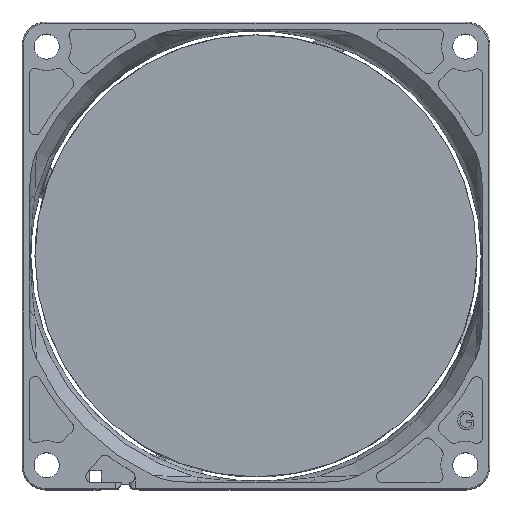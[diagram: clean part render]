
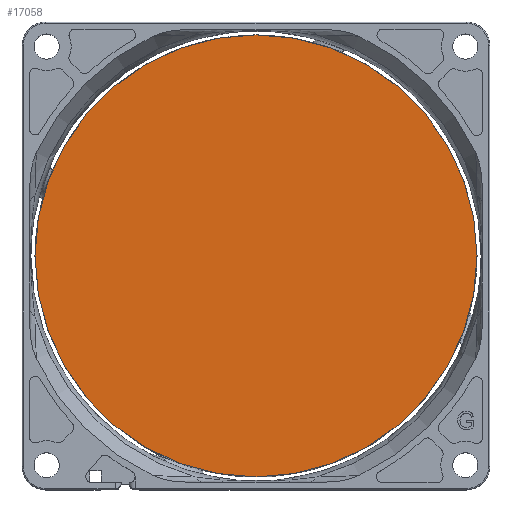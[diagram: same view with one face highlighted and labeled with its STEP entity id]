
A CAD part, top view. The second image highlights one B-rep face of the part: STEP entity #17058.
In plain terms, the highlighted planar face has unit normal (0, 0, 1).
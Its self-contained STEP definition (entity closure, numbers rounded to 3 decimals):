
#422 = ORIENTED_EDGE ( 'NONE', *, *, #9030, .T. ) ;
#1306 = VERTEX_POINT ( 'NONE', #5886 ) ;
#1596 = CARTESIAN_POINT ( 'NONE',  ( 0., 0., 24.3 ) ) ;
#2272 = CIRCLE ( 'NONE', #13693, 37.8 ) ;
#3019 = EDGE_CURVE ( 'NONE', #3699, #1306, #6391, .T. ) ;
#3699 = VERTEX_POINT ( 'NONE', #12178 ) ;
#4019 = DIRECTION ( 'NONE',  ( 1., 0., 0. ) ) ;
#5886 = CARTESIAN_POINT ( 'NONE',  ( -37.8, 0., 24.3 ) ) ;
#6391 = CIRCLE ( 'NONE', #11633, 37.8 ) ;
#7098 = CARTESIAN_POINT ( 'NONE',  ( 0., 0., 24.3 ) ) ;
#7377 = DIRECTION ( 'NONE',  ( 1., 0., 0. ) ) ;
#8609 = EDGE_LOOP ( 'NONE', ( #14016, #422 ) ) ;
#8834 = PLANE ( 'NONE',  #17650 ) ;
#9030 = EDGE_CURVE ( 'NONE', #1306, #3699, #2272, .T. ) ;
#9532 = CARTESIAN_POINT ( 'NONE',  ( 0., 0., 24.3 ) ) ;
#9715 = DIRECTION ( 'NONE',  ( 0., 0., 1. ) ) ;
#11633 = AXIS2_PLACEMENT_3D ( 'NONE', #7098, #9715, #4019 ) ;
#11738 = FACE_OUTER_BOUND ( 'NONE', #8609, .T. ) ;
#11831 = DIRECTION ( 'NONE',  ( 0., 0., 1. ) ) ;
#12178 = CARTESIAN_POINT ( 'NONE',  ( 37.8, 0., 24.3 ) ) ;
#13693 = AXIS2_PLACEMENT_3D ( 'NONE', #9532, #15456, #13808 ) ;
#13808 = DIRECTION ( 'NONE',  ( 1., 0., 0. ) ) ;
#14016 = ORIENTED_EDGE ( 'NONE', *, *, #3019, .T. ) ;
#15456 = DIRECTION ( 'NONE',  ( 0., 0., 1. ) ) ;
#17058 = ADVANCED_FACE ( 'NONE', ( #11738 ), #8834, .T. ) ;
#17650 = AXIS2_PLACEMENT_3D ( 'NONE', #1596, #11831, #7377 ) ;
